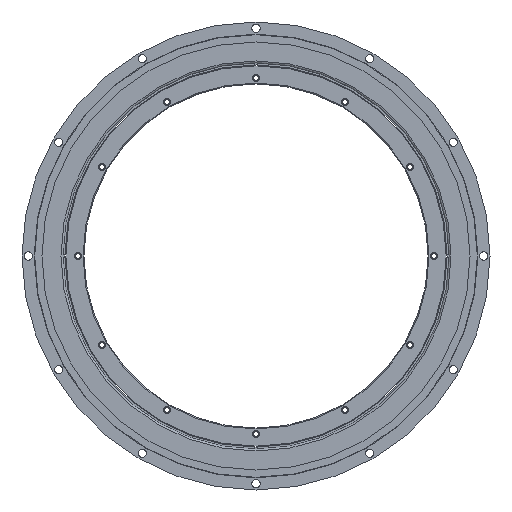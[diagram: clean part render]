
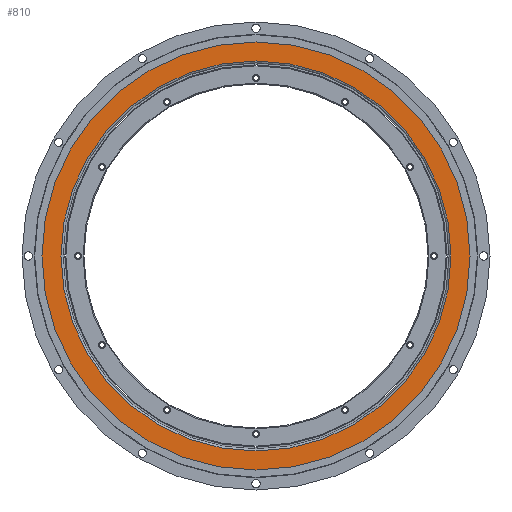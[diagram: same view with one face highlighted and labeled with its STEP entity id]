
A CAD part, front view. The second image highlights one B-rep face of the part: STEP entity #810.
In plain terms, the highlighted planar face has unit normal (0, -1, 0) as drawn and (1, 0, 0) by its records, which use the part's own axes.
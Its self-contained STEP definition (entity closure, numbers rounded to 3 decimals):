
#810=ADVANCED_FACE('',(#1680,#1682),#1684,.T.);
#1680=FACE_BOUND('',#1681,.T.);
#1681=EDGE_LOOP('',(#2021));
#1682=FACE_BOUND('',#1683,.T.);
#1683=EDGE_LOOP('',(#2022));
#1684=PLANE('',#1685);
#1685=AXIS2_PLACEMENT_3D('',#1686,#1687,#1688);
#1686=CARTESIAN_POINT('',(-0.001,0.,0.));
#1687=DIRECTION('',(1.,0.,0.));
#1688=DIRECTION('',(0.,0.,-1.));
#2021=ORIENTED_EDGE('',*,*,#2143,.T.);
#2022=ORIENTED_EDGE('',*,*,#2145,.F.);
#2143=EDGE_CURVE('',#2340,#2340,#2341,.T.);
#2145=EDGE_CURVE('',#2344,#2344,#2345,.F.);
#2340=VERTEX_POINT('',#2824);
#2341=CIRCLE('',#2825,219.5);
#2344=VERTEX_POINT('',#2834);
#2345=CIRCLE('',#2835,200.);
#2824=CARTESIAN_POINT('',(-0.001,0.,-219.5));
#2825=AXIS2_PLACEMENT_3D('',#2826,#2827,#2828);
#2826=CARTESIAN_POINT('',(-0.001,0.,0.));
#2827=DIRECTION('',(1.,0.,0.));
#2828=DIRECTION('',(0.,0.,-1.));
#2834=CARTESIAN_POINT('',(-0.001,0.,200.));
#2835=AXIS2_PLACEMENT_3D('',#2836,#2837,#2838);
#2836=CARTESIAN_POINT('',(-0.001,0.,0.));
#2837=DIRECTION('',(-1.,0.,0.));
#2838=DIRECTION('',(0.,0.,1.));
